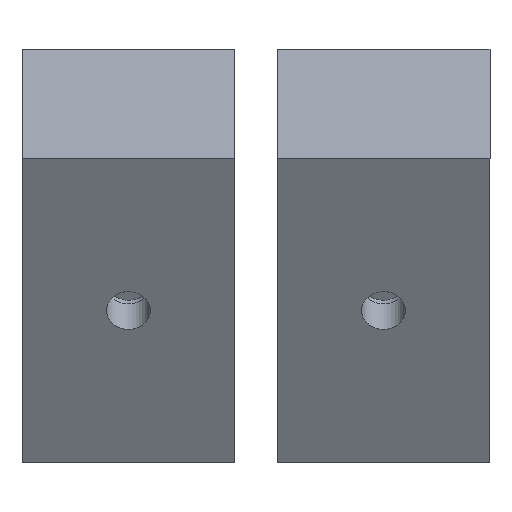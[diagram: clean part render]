
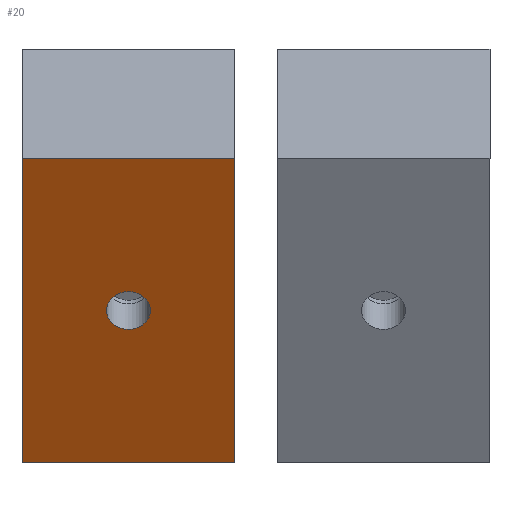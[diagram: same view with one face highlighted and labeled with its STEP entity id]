
A CAD part, top view. The second image highlights one B-rep face of the part: STEP entity #20.
In plain terms, the highlighted planar face has unit normal (0, -0.514, 0.858).
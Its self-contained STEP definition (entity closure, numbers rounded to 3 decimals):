
#16=FACE_BOUND('',#61,.T.);
#20=ADVANCED_FACE('',(#40,#16),#278,.T.);
#40=FACE_OUTER_BOUND('',#60,.T.);
#60=EDGE_LOOP('',(#88,#89,#90,#91));
#61=EDGE_LOOP('',(#92,#93));
#88=ORIENTED_EDGE('',*,*,#163,.T.);
#89=ORIENTED_EDGE('',*,*,#159,.T.);
#90=ORIENTED_EDGE('',*,*,#164,.F.);
#91=ORIENTED_EDGE('',*,*,#161,.F.);
#92=ORIENTED_EDGE('',*,*,#165,.T.);
#93=ORIENTED_EDGE('',*,*,#171,.T.);
#159=EDGE_CURVE('',#244,#247,#225,.T.);
#161=EDGE_CURVE('',#248,#249,#227,.T.);
#163=EDGE_CURVE('',#248,#244,#229,.T.);
#164=EDGE_CURVE('',#249,#247,#230,.T.);
#165=EDGE_CURVE('',#252,#253,#198,.T.);
#171=EDGE_CURVE('',#253,#252,#201,.T.);
#198=TRIMMED_CURVE($,#210,(#499),(#500),.T.,.CARTESIAN.);
#201=TRIMMED_CURVE($,#213,(#514),(#515),.T.,.CARTESIAN.);
#210=CIRCLE('',#386,3.1);
#213=CIRCLE('',#389,3.1);
#225=B_SPLINE_CURVE_WITH_KNOTS('',1,(#486,#487),.UNSPECIFIED.,.F.,.F.,(2,
2),(0.,30.),.UNSPECIFIED.);
#227=B_SPLINE_CURVE_WITH_KNOTS('',1,(#490,#491),.UNSPECIFIED.,.F.,.F.,(2,
2),(0.,30.),.UNSPECIFIED.);
#229=B_SPLINE_CURVE_WITH_KNOTS('',1,(#494,#495),.UNSPECIFIED.,.F.,.F.,(2,
2),(88.31,138.31),.UNSPECIFIED.);
#230=B_SPLINE_CURVE_WITH_KNOTS('',1,(#496,#497),.UNSPECIFIED.,.F.,.F.,(2,
2),(88.31,138.31),.UNSPECIFIED.);
#244=VERTEX_POINT('',#468);
#247=VERTEX_POINT('',#471);
#248=VERTEX_POINT('',#472);
#249=VERTEX_POINT('',#473);
#252=VERTEX_POINT('',#476);
#253=VERTEX_POINT('',#477);
#278=PLANE('',#378);
#378=AXIS2_PLACEMENT_3D('',#460,#413,$);
#386=AXIS2_PLACEMENT_3D($,#498,#421,#422);
#389=AXIS2_PLACEMENT_3D($,#513,#427,#428);
#413=DIRECTION('',(0.,-0.514,0.857));
#421=DIRECTION('',(0.,0.514,-0.857));
#422=DIRECTION('',(-1.,0.,0.));
#427=DIRECTION('',(0.,0.514,-0.857));
#428=DIRECTION('',(1.,0.,0.));
#460=CARTESIAN_POINT('',(2473.304,-82.214,-124.349));
#468=CARTESIAN_POINT('',(2473.304,-125.088,-150.074));
#471=CARTESIAN_POINT('',(2503.304,-125.088,-150.074));
#472=CARTESIAN_POINT('',(2473.304,-82.214,-124.349));
#473=CARTESIAN_POINT('',(2503.304,-82.214,-124.349));
#476=CARTESIAN_POINT('',(2485.204,-103.651,-137.212));
#477=CARTESIAN_POINT('',(2491.404,-103.651,-137.212));
#486=CARTESIAN_POINT('',(2473.304,-125.088,-150.074));
#487=CARTESIAN_POINT('',(2503.304,-125.088,-150.074));
#490=CARTESIAN_POINT('',(2473.304,-82.214,-124.349));
#491=CARTESIAN_POINT('',(2503.304,-82.214,-124.349));
#494=CARTESIAN_POINT('',(2473.304,-82.214,-124.349));
#495=CARTESIAN_POINT('',(2473.304,-125.088,-150.074));
#496=CARTESIAN_POINT('',(2503.304,-82.214,-124.349));
#497=CARTESIAN_POINT('',(2503.304,-125.088,-150.074));
#498=CARTESIAN_POINT('',(2488.304,-103.651,-137.212));
#499=CARTESIAN_POINT('',(2485.204,-103.651,-137.212));
#500=CARTESIAN_POINT('',(2491.404,-103.651,-137.212));
#513=CARTESIAN_POINT('',(2488.304,-103.651,-137.212));
#514=CARTESIAN_POINT('',(2491.404,-103.651,-137.212));
#515=CARTESIAN_POINT('',(2485.204,-103.651,-137.212));
